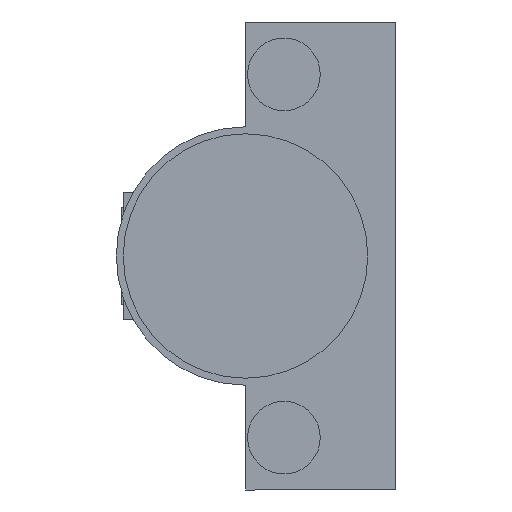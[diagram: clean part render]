
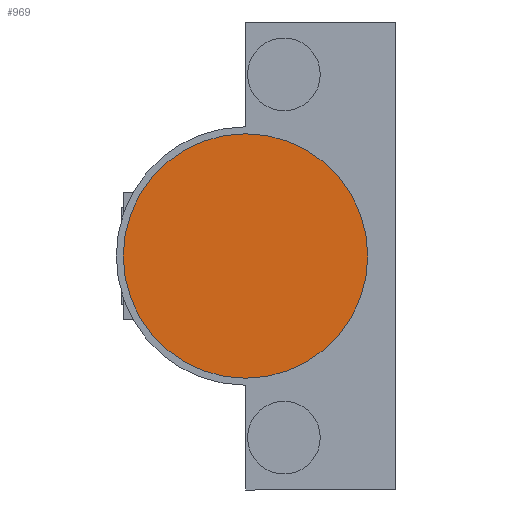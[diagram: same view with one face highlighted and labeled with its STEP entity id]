
A CAD part, front view. The second image highlights one B-rep face of the part: STEP entity #969.
In plain terms, the highlighted planar face has unit normal (0, -1, 0).
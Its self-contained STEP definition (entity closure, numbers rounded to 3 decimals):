
#26 = CARTESIAN_POINT ( 'NONE',  ( 21.5, -51.1, 0. ) ) ;
#64 = CARTESIAN_POINT ( 'NONE',  ( 21.5, -51.1, 0. ) ) ;
#172 = CARTESIAN_POINT ( 'NONE',  ( 21.5, -51.1, 0. ) ) ;
#287 = VERTEX_POINT ( 'NONE', #610 ) ;
#321 = DIRECTION ( 'NONE',  ( 1., 0., 0. ) ) ;
#339 = ORIENTED_EDGE ( 'NONE', *, *, #1685, .T. ) ;
#374 = EDGE_CURVE ( 'NONE', #287, #559, #1658, .T. ) ;
#519 = DIRECTION ( 'NONE',  ( 0., -1., 0. ) ) ;
#549 = CIRCLE ( 'NONE', #793, 17.5 ) ;
#559 = VERTEX_POINT ( 'NONE', #1624 ) ;
#610 = CARTESIAN_POINT ( 'NONE',  ( 4., -51.1, 0. ) ) ;
#640 = FACE_OUTER_BOUND ( 'NONE', #735, .T. ) ;
#735 = EDGE_LOOP ( 'NONE', ( #938, #339 ) ) ;
#755 = DIRECTION ( 'NONE',  ( 0., -1., 0. ) ) ;
#793 = AXIS2_PLACEMENT_3D ( 'NONE', #64, #519, #1610 ) ;
#909 = AXIS2_PLACEMENT_3D ( 'NONE', #172, #755, #321 ) ;
#938 = ORIENTED_EDGE ( 'NONE', *, *, #374, .T. ) ;
#969 = ADVANCED_FACE ( 'NONE', ( #640 ), #1440, .T. ) ;
#1048 = AXIS2_PLACEMENT_3D ( 'NONE', #26, #1146, #1684 ) ;
#1146 = DIRECTION ( 'NONE',  ( 0., -1., 0. ) ) ;
#1440 = PLANE ( 'NONE',  #909 ) ;
#1610 = DIRECTION ( 'NONE',  ( 1., 0., 0. ) ) ;
#1624 = CARTESIAN_POINT ( 'NONE',  ( 39., -51.1, 0. ) ) ;
#1658 = CIRCLE ( 'NONE', #1048, 17.5 ) ;
#1684 = DIRECTION ( 'NONE',  ( 1., 0., 0. ) ) ;
#1685 = EDGE_CURVE ( 'NONE', #559, #287, #549, .T. ) ;
